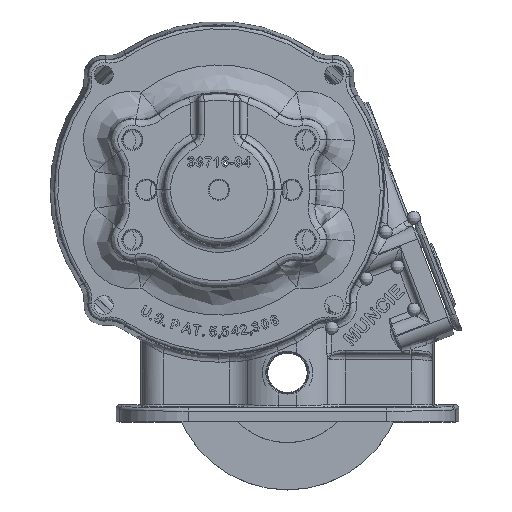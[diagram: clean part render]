
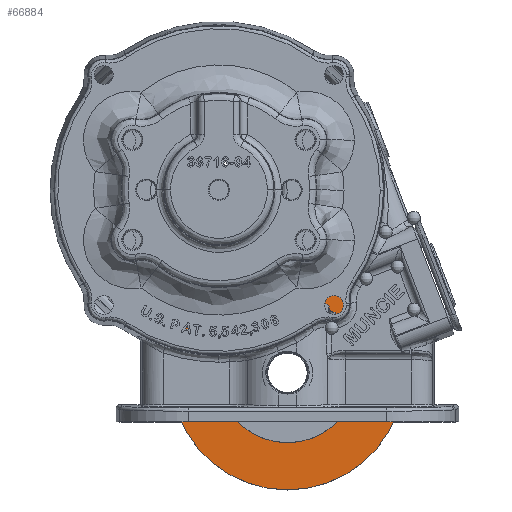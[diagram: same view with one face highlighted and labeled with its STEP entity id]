
A CAD part, top view. The second image highlights one B-rep face of the part: STEP entity #66884.
In plain terms, the highlighted planar face has unit normal (0, 0, 1).
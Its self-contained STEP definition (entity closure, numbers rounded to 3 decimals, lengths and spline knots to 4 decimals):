
#4843 = VERTEX_POINT ( 'NONE', #6213 ) ;
#5432 = EDGE_LOOP ( 'NONE', ( #38132, #38134 ) ) ;
#5447 = EDGE_LOOP ( 'NONE', ( #38128, #38130 ) ) ;
#6213 = CARTESIAN_POINT ( 'NONE',  ( 0.2973, -0.2645, -0.2777 ) ) ;
#10367 = VERTEX_POINT ( 'NONE', #48804 ) ;
#10423 = VERTEX_POINT ( 'NONE', #48832 ) ;
#10527 = VERTEX_POINT ( 'NONE', #48884 ) ;
#38128 = ORIENTED_EDGE ( 'NONE', *, *, #61269, .T. ) ;
#38130 = ORIENTED_EDGE ( 'NONE', *, *, #61252, .T. ) ;
#38132 = ORIENTED_EDGE ( 'NONE', *, *, #61268, .F. ) ;
#38134 = ORIENTED_EDGE ( 'NONE', *, *, #61258, .F. ) ;
#48804 = CARTESIAN_POINT ( 'NONE',  ( 0.2973, -2.6645, -0.2777 ) ) ;
#48832 = CARTESIAN_POINT ( 'NONE',  ( 0.2973, -3.5995, -0.2777 ) ) ;
#48884 = CARTESIAN_POINT ( 'NONE',  ( 0.2973, 0.6705, -0.2777 ) ) ;
#61252 = EDGE_CURVE ( 'NONE', #10423, #10527, #79769, .T. ) ;
#61258 = EDGE_CURVE ( 'NONE', #10367, #4843, #79796, .T. ) ;
#61268 = EDGE_CURVE ( 'NONE', #4843, #10367, #79918, .T. ) ;
#61269 = EDGE_CURVE ( 'NONE', #10527, #10423, #79687, .T. ) ;
#66884 = ADVANCED_FACE ( 'NONE', ( #73203, #73204 ), #73205, .T. ) ;
#73182 = CARTESIAN_POINT ( 'NONE',  ( 0.2973, -1.4645, -0.2777 ) ) ;
#73203 = FACE_OUTER_BOUND ( 'NONE', #5447, .T. ) ;
#73204 = FACE_BOUND ( 'NONE', #5432, .T. ) ;
#73205 = PLANE ( 'NONE',  #79717 ) ;
#73208 = DIRECTION ( 'NONE',  ( 0., 0., 1. ) ) ;
#73209 = DIRECTION ( 'NONE',  ( 0., -1., 0. ) ) ;
#74292 = CARTESIAN_POINT ( 'NONE',  ( 0.2973, -1.4645, -0.2777 ) ) ;
#74293 = DIRECTION ( 'NONE',  ( 0., 0., 1. ) ) ;
#74294 = DIRECTION ( 'NONE',  ( 0., -1., 0. ) ) ;
#74309 = CARTESIAN_POINT ( 'NONE',  ( 0.2973, -1.4645, -0.2777 ) ) ;
#74310 = DIRECTION ( 'NONE',  ( 0., 0., 1. ) ) ;
#74311 = DIRECTION ( 'NONE',  ( 0., -1., 0. ) ) ;
#74337 = CARTESIAN_POINT ( 'NONE',  ( 0.2973, -1.4645, -0.2777 ) ) ;
#74338 = DIRECTION ( 'NONE',  ( 0., 0., 1. ) ) ;
#74339 = DIRECTION ( 'NONE',  ( 0., -1., 0. ) ) ;
#74340 = CARTESIAN_POINT ( 'NONE',  ( 0.2973, -1.4645, -0.2777 ) ) ;
#74341 = DIRECTION ( 'NONE',  ( 0., 0., 1. ) ) ;
#74342 = DIRECTION ( 'NONE',  ( 0., -1., 0. ) ) ;
#79665 = AXIS2_PLACEMENT_3D ( 'NONE', #74340, #74341, #74342 ) ;
#79687 = CIRCLE ( 'NONE', #79665, 2.135 ) ;
#79717 = AXIS2_PLACEMENT_3D ( 'NONE', #73182, #73208, #73209 ) ;
#79718 = AXIS2_PLACEMENT_3D ( 'NONE', #74309, #74310, #74311 ) ;
#79769 = CIRCLE ( 'NONE', #79819, 2.135 ) ;
#79796 = CIRCLE ( 'NONE', #79718, 1.2 ) ;
#79819 = AXIS2_PLACEMENT_3D ( 'NONE', #74292, #74293, #74294 ) ;
#79904 = AXIS2_PLACEMENT_3D ( 'NONE', #74337, #74338, #74339 ) ;
#79918 = CIRCLE ( 'NONE', #79904, 1.2 ) ;
